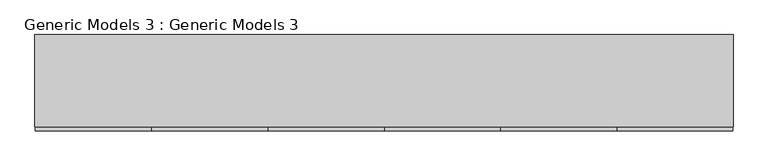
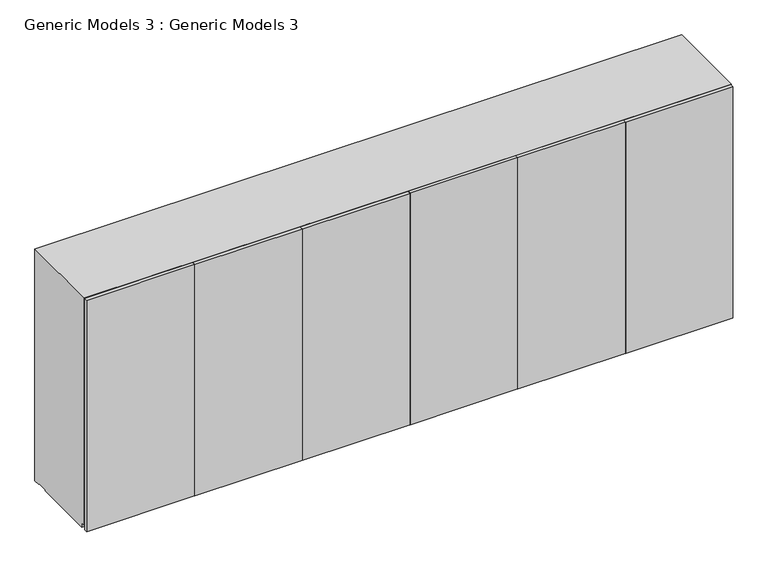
"""IFC4 building model written with IfcOpenShell, lengths in millimetres: proxy geometry, Generic Models 3 : Generic Models 3."""

import ifcopenshell
import ifcopenshell.guid

model = None  # the IFC model being written
_history = None  # IfcOwnerHistory: only IFC2X3 demands one
_inside = {}  # id of a spatial element -> (the spatial element, [elements in it])
_under = {}  # id of a project, library or spatial element -> (it, [spatial elements below it])
_declared = {}  # id of a project -> (the project, [libraries it declares])
_typed = {}  # id of a type object -> (the type object, [elements of that type])
_made_of = {}  # id of a material, layer set ... -> (it, [elements and type objects made of it])


def new_model(schema):
    """Start an empty IFC model of exactly this schema.

    Asked for "IFC4X3", IfcOpenShell would pick the latest addendum, in which some entities
    have other attributes; the version numbers below select the first issue.
    IFC2X3 requires an IfcOwnerHistory on every rooted entity: one is made here for all.
    """
    global model, _history
    if schema == "IFC4X3":
        model = ifcopenshell.file(schema_version=(4, 3, 0, 0))
    else:
        model = ifcopenshell.file(schema=schema)
    _inside.clear()
    _under.clear()
    _declared.clear()
    _typed.clear()
    _made_of.clear()
    _history = None
    if model.schema == "IFC2X3":
        org = make("IfcOrganization", Name="unknown")
        user = make(
            "IfcPersonAndOrganization",
            ThePerson=make("IfcPerson", FamilyName="unknown"),
            TheOrganization=org,
        )
        app = make(
            "IfcApplication",
            ApplicationDeveloper=org,
            Version="unknown",
            ApplicationFullName="unknown",
            ApplicationIdentifier="unknown",
        )
        _history = make(
            "IfcOwnerHistory",
            OwningUser=user,
            OwningApplication=app,
            ChangeAction="ADDED",
            CreationDate=0,
        )
    return model


def make(cls, **values):
    """One entity of the class cls with the attributes given. An attribute that is None is left unset."""
    return model.create_entity(
        cls, **{name: value for name, value in values.items() if value is not None}
    )


def rooted(cls, **values):
    """An entity with a GlobalId (a new one), such as an element, a storey or a relation."""
    return make(cls, GlobalId=ifcopenshell.guid.new(), OwnerHistory=_history, **values)


def si_unit(unit_type, name, prefix=None):
    """IfcSIUnit, for example si_unit("LENGTHUNIT", "METRE", prefix="MILLI")."""
    return make("IfcSIUnit", UnitType=unit_type, Prefix=prefix, Name=name)


def assignment(units):
    """IfcUnitAssignment: the units of a project."""
    return None if units is None else make("IfcUnitAssignment", Units=units)


def point(xyz):
    """IfcCartesianPoint."""
    return None if xyz is None else make("IfcCartesianPoint", Coordinates=xyz)


def direction(xyz):
    """IfcDirection."""
    return None if xyz is None else make("IfcDirection", DirectionRatios=xyz)


def frame(location, z_axis=None, x_axis=None):
    """IfcAxis2Placement3D, a coordinate frame: its origin and axes. An axis left out is left unset."""
    return make(
        "IfcAxis2Placement3D",
        Location=point(location),
        Axis=direction(z_axis),
        RefDirection=direction(x_axis),
    )


def origin():
    """The frame at (0, 0, 0) with its axes left unset."""
    return frame((0.0, 0.0, 0.0))


def place(relative_to, where):
    """IfcLocalPlacement: puts the frame where relative to a parent placement (None: the world)."""
    return make(
        "IfcLocalPlacement", PlacementRelTo=relative_to, RelativePlacement=where
    )


def context(
    kind, dimensions, precision=None, world=None, true_north=None, identifier=None
):
    """IfcGeometricRepresentationContext, for example the 3D "Model" context."""
    return make(
        "IfcGeometricRepresentationContext",
        ContextIdentifier=identifier,
        ContextType=kind,
        CoordinateSpaceDimension=dimensions,
        Precision=precision,
        WorldCoordinateSystem=world,
        TrueNorth=true_north,
    )


def project(units=None, contexts=None):
    """IfcProject with its units and contexts."""
    return rooted(
        "IfcProject",
        Name="project",
        RepresentationContexts=contexts,
        UnitsInContext=assignment(units),
    )


def spatial(cls, under=None, at=None, **own):
    """A site, building, storey or space (cls), placed at a placement, below another one or the project."""
    s = rooted(cls, ObjectPlacement=at, **own)
    if under is not None:
        _under.setdefault(under.id(), (under, []))[1].append(s)
    return s


def polyline(points):
    """IfcPolyline through the points."""
    return make("IfcPolyline", Points=[point(p) for p in points])


def outline(outer, holes=None, kind="AREA"):
    """IfcArbitraryClosedProfileDef: a profile drawn as a closed curve; with holes, ...WithVoids."""
    if holes is None:
        return make("IfcArbitraryClosedProfileDef", ProfileType=kind, OuterCurve=outer)
    return make(
        "IfcArbitraryProfileDefWithVoids",
        ProfileType=kind,
        OuterCurve=outer,
        InnerCurves=holes,
    )


def extrude(swept, where, along, depth):
    """IfcExtrudedAreaSolid: the profile swept, set in the frame where, extruded along a direction by depth."""
    return make(
        "IfcExtrudedAreaSolid",
        SweptArea=swept,
        Position=where,
        ExtrudedDirection=direction(along),
        Depth=depth,
    )


def faces_of(points, faces, orient=None, outer=None):
    """IfcFace entities. A face is a list of loops; a loop is a list of indices into points, from 0.

    orient and outer hold one flag for each loop. By default every Orientation is true, the
    first loop of a face is its IfcFaceOuterBound and the others are IfcFaceBound.
    """
    made = []
    for i, loops in enumerate(faces):
        bounds = []
        for j, loop in enumerate(loops):
            is_outer = j == 0 if outer is None else outer[i][j]
            bounds.append(
                make(
                    "IfcFaceOuterBound" if is_outer else "IfcFaceBound",
                    Bound=make("IfcPolyLoop", Polygon=[points[k] for k in loop]),
                    Orientation=True if orient is None else orient[i][j],
                )
            )
        made.append(make("IfcFace", Bounds=bounds))
    return made


def faceted_brep(points, faces, orient=None, outer=None, voids=None):
    """IfcFacetedBrep: a solid bounded by flat faces; with voids (closed shells), ...WithVoids."""
    shared = [point(p) for p in points]
    hull = make("IfcClosedShell", CfsFaces=faces_of(shared, faces, orient, outer))
    if voids is None:
        return make("IfcFacetedBrep", Outer=hull)
    return make(
        "IfcFacetedBrepWithVoids",
        Outer=hull,
        Voids=[
            make(cls, CfsFaces=faces_of(shared, fs, o, b)) for cls, fs, o, b in voids
        ],
    )


def shape(context_of_items, identifier, shape_type, items):
    """IfcShapeRepresentation: the items that make up one representation, for example the "Body"."""
    return make(
        "IfcShapeRepresentation",
        ContextOfItems=context_of_items,
        RepresentationIdentifier=identifier,
        RepresentationType=shape_type,
        Items=items,
    )


def source(mapping_origin, context_of_items, identifier, shape_type, items):
    """IfcRepresentationMap: a shape defined once, which mapped items show again and again."""
    return make(
        "IfcRepresentationMap",
        MappingOrigin=mapping_origin,
        MappedRepresentation=shape(context_of_items, identifier, shape_type, items),
    )


def transform(
    local_origin,
    x_axis=None,
    y_axis=None,
    z_axis=None,
    scale=None,
    scale2=None,
    scale3=None,
    uniform=True,
):
    """IfcCartesianTransformationOperator3D, or its non-uniform kind. x_axis, y_axis, z_axis: its Axis1, 2, 3."""
    if uniform:
        return make(
            "IfcCartesianTransformationOperator3D",
            Axis1=direction(x_axis),
            Axis2=direction(y_axis),
            LocalOrigin=point(local_origin),
            Scale=scale,
            Axis3=direction(z_axis),
        )
    return make(
        "IfcCartesianTransformationOperator3DnonUniform",
        Axis1=direction(x_axis),
        Axis2=direction(y_axis),
        LocalOrigin=point(local_origin),
        Scale=scale,
        Axis3=direction(z_axis),
        Scale2=scale2,
        Scale3=scale3,
    )


def mapped(mapping_source, mapping_target):
    """IfcMappedItem: shows the shape of a source again, moved by a transform."""
    return make(
        "IfcMappedItem", MappingSource=mapping_source, MappingTarget=mapping_target
    )


def made_of(thing, what):
    """Note that an element or type object is made of a material, layer set ...; save() writes the relation."""
    if what is not None:
        _made_of.setdefault(what.id(), (what, []))[1].append(thing)
    return thing


def element(
    cls,
    number,
    at=None,
    inside=None,
    cuts=None,
    type_object=None,
    material=None,
    context=None,
    identifier="Body",
    shape_type=None,
    held_by="IfcProductDefinitionShape",
    body=None,
    shapes=None,
    **own,
):
    """One element of the class cls, such as IfcWall. Its Tag is "e" and its number.

    at: its placement. inside: the storey or other place that contains it. cuts: it is an
    opening in that element (IfcRelVoidsElement). A single representation is given by context,
    identifier, shape_type and body (its items); several are given by shapes. held_by: the class
    of the entity that holds the representations. save() writes the other relations.
    """
    e = rooted(cls, Tag="e%d" % number, ObjectPlacement=at, **own)
    if body is not None:
        shapes = [shape(context, identifier, shape_type, body)]
    if shapes is not None:
        e.Representation = make(held_by, Representations=shapes)
    if inside is not None:
        _inside.setdefault(inside.id(), (inside, []))[1].append(e)
    if cuts is not None:
        rooted(
            "IfcRelVoidsElement", RelatingBuildingElement=cuts, RelatedOpeningElement=e
        )
    if type_object is not None:
        _typed.setdefault(type_object.id(), (type_object, []))[1].append(e)
    return made_of(e, material)


def aggregate(whole, parts):
    """IfcRelAggregates: a whole, such as a stair, and the parts it consists of."""
    return rooted("IfcRelAggregates", RelatingObject=whole, RelatedObjects=parts)


def save(model, path):
    """Write the relations noted so far, then the file.

    IfcRelAggregates (storeys below a building ...), IfcRelContainedInSpatialStructure (elements
    in a storey), IfcRelDefinesByType, IfcRelAssociatesMaterial and IfcRelDeclares: one each for
    every whole, place, type object, material and project.
    """
    for whole, parts in _under.values():
        aggregate(whole, parts)
    for where, things in _inside.values():
        rooted(
            "IfcRelContainedInSpatialStructure",
            RelatedElements=things,
            RelatingStructure=where,
        )
    for kind, things in _typed.values():
        rooted("IfcRelDefinesByType", RelatedObjects=things, RelatingType=kind)
    for what, things in _made_of.values():
        rooted("IfcRelAssociatesMaterial", RelatedObjects=things, RelatingMaterial=what)
    for by, libraries in _declared.values():
        rooted("IfcRelDeclares", RelatingContext=by, RelatedDefinitions=libraries)
    model.write(path)


def generic_models_3_generic_models_3_384174a5(model_context):
    return source(origin(), model_context, "Body", "SolidModel", [
        extrude(outline(polyline([(7261.9525098, 8187.7866664), (6778.9525098, 8187.7866664), (6778.9525098, 8203.7866664), (7261.9525098, 8203.7866664), (7261.9525098, 8187.7866664)])), frame((0.0, 0.0, 1500.0), z_axis=(0.0, 0.0, 1.0), x_axis=(1.0, 0.0, 0.0)), (0.0, 0.0, 1.0), 1098.0),
        extrude(outline(polyline([(9676.9525098, 8187.7866664), (9195.9525098, 8187.7866664), (9195.9525098, 8203.7866664), (9676.9525098, 8203.7866664), (9676.9525098, 8187.7866664)])), frame((0.0, 0.0, 1500.0), z_axis=(0.0, 0.0, 1.0), x_axis=(1.0, 0.0, 0.0)), (0.0, 0.0, 1.0), 1098.0),
        extrude(outline(polyline([(7744.9525098, 8187.7866664), (7263.9525098, 8187.7866664), (7263.9525098, 8203.7866664), (7744.9525098, 8203.7866664), (7744.9525098, 8187.7866664)])), frame((0.0, 0.0, 1500.0), z_axis=(0.0, 0.0, 1.0), x_axis=(1.0, 0.0, 0.0)), (0.0, 0.0, 1.0), 1098.0),
        extrude(outline(polyline([(8227.9525098, 8187.7866664), (7746.9525098, 8187.7866664), (7746.9525098, 8203.7866664), (8227.9525098, 8203.7866664), (8227.9525098, 8187.7866664)])), frame((0.0, 0.0, 1500.0), z_axis=(0.0, 0.0, 1.0), x_axis=(1.0, 0.0, 0.0)), (0.0, 0.0, 1.0), 1098.0),
        extrude(outline(polyline([(8710.9525098, 8187.7866664), (8229.9525098, 8187.7866664), (8229.9525098, 8203.7866664), (8710.9525098, 8203.7866664), (8710.9525098, 8187.7866664)])), frame((0.0, 0.0, 1500.0), z_axis=(0.0, 0.0, 1.0), x_axis=(1.0, 0.0, 0.0)), (0.0, 0.0, 1.0), 1098.0),
        extrude(outline(polyline([(9193.9525098, 8187.7866664), (8712.9525098, 8187.7866664), (8712.9525098, 8203.7866664), (9193.9525098, 8203.7866664), (9193.9525098, 8187.7866664)])), frame((0.0, 0.0, 1500.0), z_axis=(0.0, 0.0, 1.0), x_axis=(1.0, 0.0, 0.0)), (0.0, 0.0, 1.0), 1098.0),
        faceted_brep([(9677.9525098, 8203.7866664, 2600.0), (6777.9525098, 8203.7866664, 2600.0), (6777.9525098, 8203.7866664, 1520.0), (9677.9525098, 8203.7866664, 1520.0), (6777.9525098, 8587.7866664, 2600.0), (9677.9525098, 8587.7866664, 2600.0), (9677.9525098, 8587.7866664, 1500.0), (6777.9525098, 8587.7866664, 1500.0), (6777.9525098, 8557.7866664, 1500.0), (6777.9525098, 8557.7866664, 1505.0), (6777.9525098, 8507.7866664, 1505.0), (6777.9525098, 8507.7866664, 1500.0), (6777.9525098, 8223.7866664, 1500.0), (6777.9525098, 8223.7866664, 1520.0), (9677.9525098, 8223.7866664, 1520.0), (9677.9525098, 8223.7866664, 1500.0), (9677.9525098, 8507.7866664, 1500.0), (9677.9525098, 8507.7866664, 1505.0), (9677.9525098, 8557.7866664, 1505.0), (9677.9525098, 8557.7866664, 1500.0), (8691.9525098, 8557.7866664, 1500.0), (8691.9525098, 8507.7866664, 1500.0), (8641.9525098, 8223.7866664, 1500.0), (8641.9525098, 8521.461736, 1500.0), (7811.9525098, 8521.461736, 1500.0), (7811.9525098, 8223.7866664, 1500.0), (7761.9525098, 8507.7866664, 1500.0), (7761.9525098, 8557.7866664, 1500.0), (8691.9525098, 8507.7866664, 1505.0), (8691.9525098, 8557.7866664, 1505.0), (7761.9525098, 8557.7866664, 1505.0), (7761.9525098, 8507.7866664, 1505.0), (8641.9525098, 8223.7866664, 1750.0), (7811.9525098, 8223.7866664, 1750.0), (7811.9525098, 8521.461736, 1750.0), (8641.9525098, 8521.461736, 1750.0), (8641.9525098, 8223.7866664, 1520.0), (7811.9525098, 8223.7866664, 1520.0)], [[[0, 1, 2, 3]], [[4, 5, 6, 7]], [[4, 7, 8, 9, 10, 11, 12, 13, 2, 1]], [[6, 5, 0, 3, 14, 15, 16, 17, 18, 19]], [[1, 0, 5, 4]], [[7, 6, 19, 20, 21, 16, 15, 22, 23, 24, 25, 12, 11, 26, 27, 8]], [[17, 28, 29, 18]], [[30, 31, 10, 9]], [[18, 29, 20, 19]], [[28, 17, 16, 21]], [[30, 9, 8, 27]], [[10, 31, 26, 11]], [[29, 28, 21, 20]], [[31, 30, 27, 26]], [[32, 33, 34, 35]], [[32, 35, 23, 22, 36]], [[35, 34, 24, 23]], [[34, 33, 37, 25, 24]], [[33, 32, 36, 37]], [[36, 14, 3, 2, 13, 37]], [[14, 36, 22, 15]], [[37, 13, 12, 25]]]),
    ])


if __name__ == "__main__":
    model = new_model("IFC4")
    model_context = context("Model", 3, world=origin())
    ifc_project = project(units=[si_unit("LENGTHUNIT", "METRE", prefix="MILLI")], contexts=[model_context])
    site = spatial("IfcSite", under=ifc_project)
    building = spatial("IfcBuilding", under=site)
    placement = place(None, origin())
    generic_models_3_generic_models_3_shape = generic_models_3_generic_models_3_384174a5(model_context)
    element("IfcBuildingElementProxy", 1, Name="Generic Models 3 : Generic Models 3", ObjectType="Generic Models 3 : Generic Models 3", at=placement, inside=building, context=model_context, shape_type="MappedRepresentation", body=[
        mapped(generic_models_3_generic_models_3_shape, transform((0.0, 0.0, 0.0), x_axis=(1.0, 0.0, 0.0), y_axis=(0.0, 1.0, 0.0), z_axis=(0.0, 0.0, 1.0))),
    ])
    save(model, "model.ifc")
